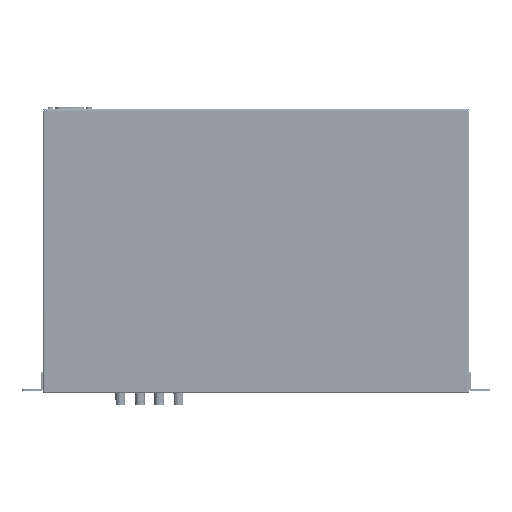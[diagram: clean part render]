
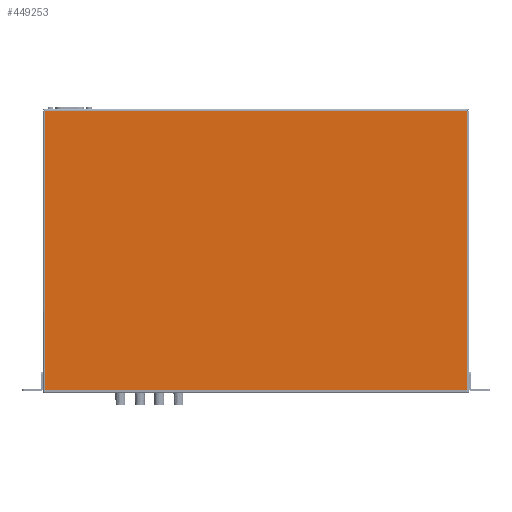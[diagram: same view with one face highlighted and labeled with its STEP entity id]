
A CAD part, front view. The second image highlights one B-rep face of the part: STEP entity #449253.
In plain terms, the highlighted planar face has unit normal (0, -1, 0).
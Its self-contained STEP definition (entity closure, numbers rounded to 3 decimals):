
#1809 = LINE ( 'NONE', #77908, #422653 ) ;
#3906 = CARTESIAN_POINT ( 'NONE',  ( -220., 0., -290.2 ) ) ;
#32234 = CARTESIAN_POINT ( 'NONE',  ( 218., 0., -290.165 ) ) ;
#34330 = DIRECTION ( 'NONE',  ( 0., -1., 0. ) ) ;
#36839 = CARTESIAN_POINT ( 'NONE',  ( 218., 0., -2. ) ) ;
#41527 = DIRECTION ( 'NONE',  ( 0., -1., 0. ) ) ;
#52208 = DIRECTION ( 'NONE',  ( 1., 0., 0. ) ) ;
#55355 = EDGE_CURVE ( 'NONE', #458179, #529690, #1809, .T. ) ;
#62291 = EDGE_CURVE ( 'NONE', #121546, #295514, #131192, .T. ) ;
#72686 = ORIENTED_EDGE ( 'NONE', *, *, #417168, .T. ) ;
#77314 = LINE ( 'NONE', #3906, #293962 ) ;
#77908 = CARTESIAN_POINT ( 'NONE',  ( -218., 0., -290.2 ) ) ;
#82430 = VECTOR ( 'NONE', #424230, 1000. ) ;
#88758 = EDGE_LOOP ( 'NONE', ( #218400, #426230, #337117, #72686, #169247, #296745 ) ) ;
#93925 = CARTESIAN_POINT ( 'NONE',  ( 217.737, 0., -289.2 ) ) ;
#108624 = EDGE_CURVE ( 'NONE', #458179, #456523, #319392, .T. ) ;
#116718 = VECTOR ( 'NONE', #164231, 1000. ) ;
#121546 = VERTEX_POINT ( 'NONE', #32234 ) ;
#123824 = EDGE_CURVE ( 'NONE', #348727, #121546, #145864, .T. ) ;
#131192 = LINE ( 'NONE', #296700, #82430 ) ;
#145864 = CIRCLE ( 'NONE', #449066, 1. ) ;
#163338 = AXIS2_PLACEMENT_3D ( 'NONE', #405950, #34330, #213161 ) ;
#164231 = DIRECTION ( 'NONE',  ( -1., 0., 0. ) ) ;
#169247 = ORIENTED_EDGE ( 'NONE', *, *, #55355, .F. ) ;
#176919 = CARTESIAN_POINT ( 'NONE',  ( -220., 0., -290.2 ) ) ;
#177570 = CARTESIAN_POINT ( 'NONE',  ( 218., 0., -2. ) ) ;
#182068 = CARTESIAN_POINT ( 'NONE',  ( -218., 0., -290.165 ) ) ;
#213161 = DIRECTION ( 'NONE',  ( 1., 0., 0. ) ) ;
#218400 = ORIENTED_EDGE ( 'NONE', *, *, #374091, .T. ) ;
#256766 = DIRECTION ( 'NONE',  ( 1., 0., 0. ) ) ;
#258362 = PLANE ( 'NONE',  #455343 ) ;
#262105 = DIRECTION ( 'NONE',  ( 0., -1., 0. ) ) ;
#293609 = FACE_OUTER_BOUND ( 'NONE', #88758, .T. ) ;
#293962 = VECTOR ( 'NONE', #367589, 1000. ) ;
#295514 = VERTEX_POINT ( 'NONE', #177570 ) ;
#296700 = CARTESIAN_POINT ( 'NONE',  ( 218., 0., -290.2 ) ) ;
#296745 = ORIENTED_EDGE ( 'NONE', *, *, #108624, .T. ) ;
#319392 = CIRCLE ( 'NONE', #163338, 1. ) ;
#330053 = DIRECTION ( 'NONE',  ( 0., 0., 1. ) ) ;
#335001 = LINE ( 'NONE', #36839, #116718 ) ;
#337117 = ORIENTED_EDGE ( 'NONE', *, *, #62291, .T. ) ;
#343773 = CARTESIAN_POINT ( 'NONE',  ( -218., 0., -2. ) ) ;
#348727 = VERTEX_POINT ( 'NONE', #360945 ) ;
#360945 = CARTESIAN_POINT ( 'NONE',  ( 217.737, 0., -290.2 ) ) ;
#367589 = DIRECTION ( 'NONE',  ( 1., 0., 0. ) ) ;
#374091 = EDGE_CURVE ( 'NONE', #456523, #348727, #77314, .T. ) ;
#405950 = CARTESIAN_POINT ( 'NONE',  ( -217.737, 0., -289.2 ) ) ;
#417168 = EDGE_CURVE ( 'NONE', #295514, #529690, #335001, .T. ) ;
#422653 = VECTOR ( 'NONE', #330053, 1000. ) ;
#424230 = DIRECTION ( 'NONE',  ( 0., 0., 1. ) ) ;
#426230 = ORIENTED_EDGE ( 'NONE', *, *, #123824, .T. ) ;
#449066 = AXIS2_PLACEMENT_3D ( 'NONE', #93925, #262105, #256766 ) ;
#449253 = ADVANCED_FACE ( 'NONE', ( #293609 ), #258362, .T. ) ;
#455343 = AXIS2_PLACEMENT_3D ( 'NONE', #176919, #41527, #52208 ) ;
#456523 = VERTEX_POINT ( 'NONE', #509614 ) ;
#458179 = VERTEX_POINT ( 'NONE', #182068 ) ;
#509614 = CARTESIAN_POINT ( 'NONE',  ( -217.737, 0., -290.2 ) ) ;
#529690 = VERTEX_POINT ( 'NONE', #343773 ) ;
